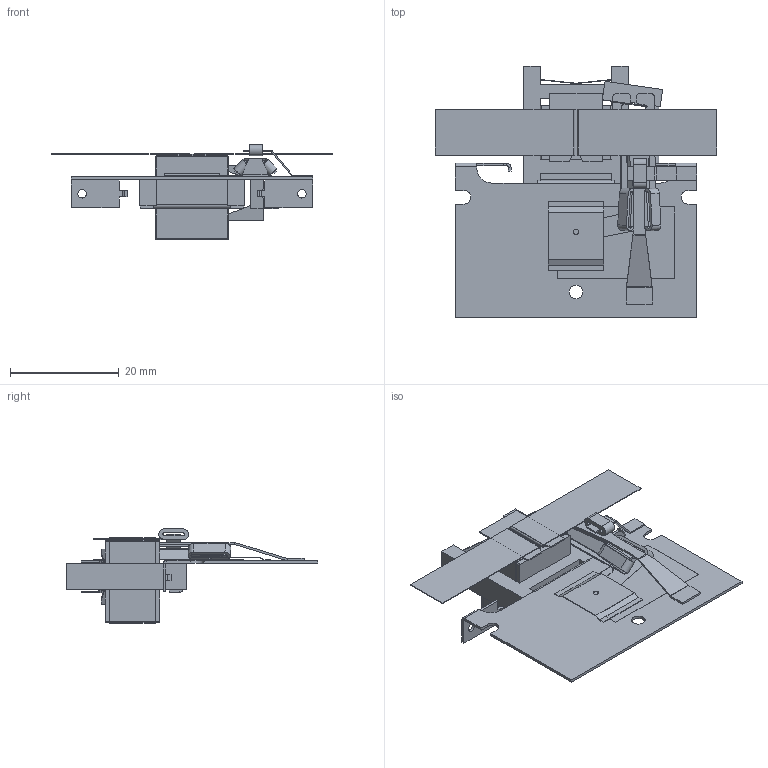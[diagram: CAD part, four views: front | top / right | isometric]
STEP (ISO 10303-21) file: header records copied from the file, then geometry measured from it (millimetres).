
FILE_DESCRIPTION (( 'STEP AP214' ), '1' );
FILE_NAME ('LS2 STD dumb.STEP', '2021-01-26T13:15:23', ( '' ), ( '' ), 'SwSTEP 2.0', 'SolidWorks 2020', '' );
FILE_SCHEMA (( 'AUTOMOTIVE_DESIGN' ));
Length unit declared in the file: inch
Products named in the file (1): LS2 STD dumb
Bounding box: 51.82 x 46.41 x 17.41 mm (x, y, z)
Volume: 4085.5 mm3; surface area: 9228.4 mm2
Topology: 13 solids, 13 shells, 402 faces, 1000 edges, 618 vertices
Faces by surface type: plane 316, cylinder 78, bspline 8
Full cylindrical faces by diameter (mm): 1 x1, 1.575 x2, 2 x1, 2.489 x1, 2.54 x1, 6.35 x1
Entity records: 17173 total; most frequent: CARTESIAN_POINT 2212, ORIENTED_EDGE 1984, DIRECTION 1905, EDGE_CURVE 992, VECTOR 821, LINE 821, VERTEX_POINT 617, AXIS2_PLACEMENT_3D 542
